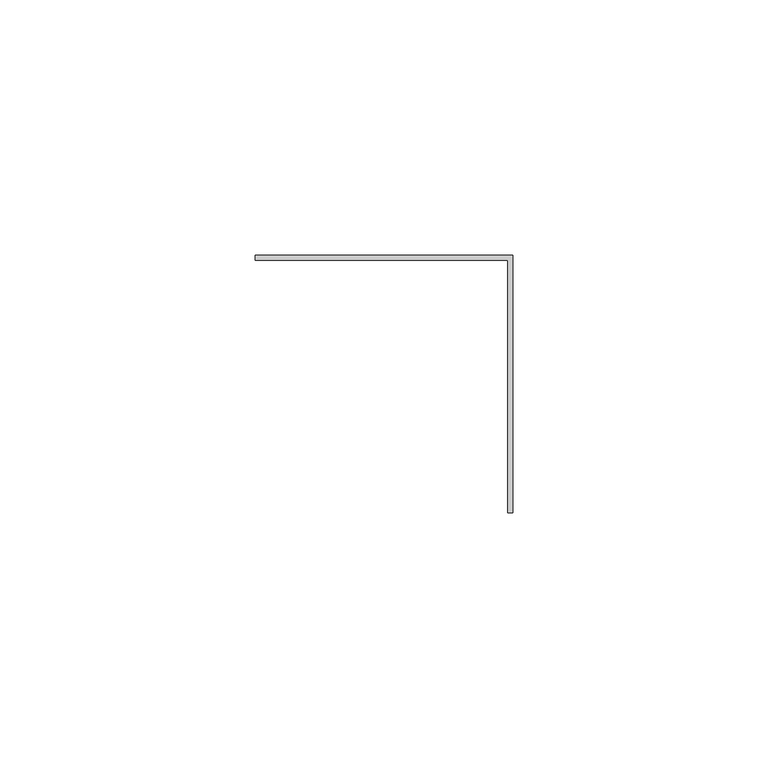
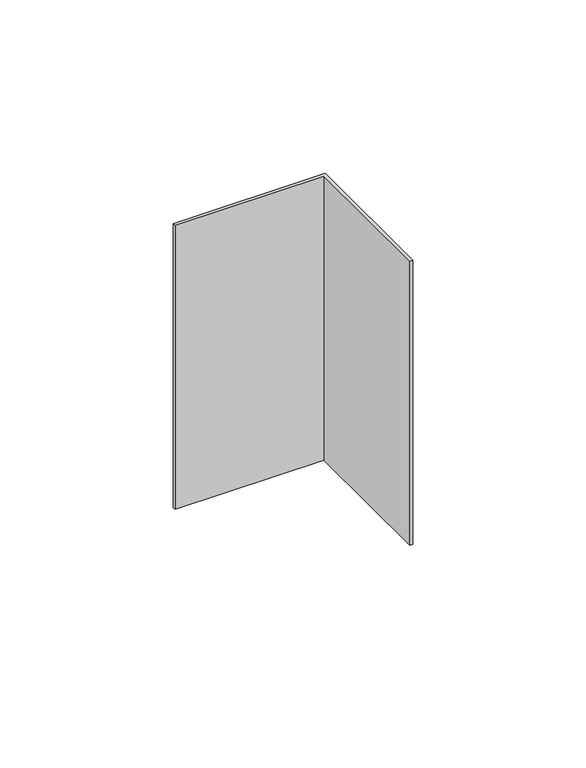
"""IFC4 building model written with IfcOpenShell, lengths in millimetres: member geometry, Meneau d'angle en L : ATELIERS 3S_Angle sortant."""

from ifc_helpers import new_model, si_unit, frame, origin, place, context, project, spatial, polyline, outline, extrude, source, transform, mapped, element, save


def member_c9027878(model_context):
    return source(origin(), model_context, "Body", "SweptSolid", [
        extrude(outline(polyline([(37.5, -12.0), (37.5, 37.5), (-12.0, 37.5), (-12.0, 38.5), (38.5, 38.5), (38.5, -12.0), (37.5, -12.0)])), frame((0.0, 0.0, -100.0), z_axis=(0.0, 0.0, 1.0), x_axis=(1.0, 0.0, 0.0)), (0.0, 0.0, 1.0), 100.0),
    ])


if __name__ == "__main__":
    model = new_model("IFC4")
    model_context = context("Model", 3, world=origin())
    ifc_project = project(units=[si_unit("LENGTHUNIT", "METRE", prefix="MILLI")], contexts=[model_context])
    site = spatial("IfcSite", under=ifc_project)
    building = spatial("IfcBuilding", under=site)
    placement = place(None, origin())
    member_shape = member_c9027878(model_context)
    element("IfcMember", 1, ObjectType="Meneau d'angle en L : ATELIERS 3S_Angle sortant", at=placement, inside=building, context=model_context, shape_type="MappedRepresentation", body=[
        mapped(member_shape, transform((0.0, 0.0, 0.0), x_axis=(1.0, 0.0, 0.0), y_axis=(0.0, 1.0, 0.0), z_axis=(0.0, 0.0, 1.0))),
    ])
    save(model, "model.ifc")
